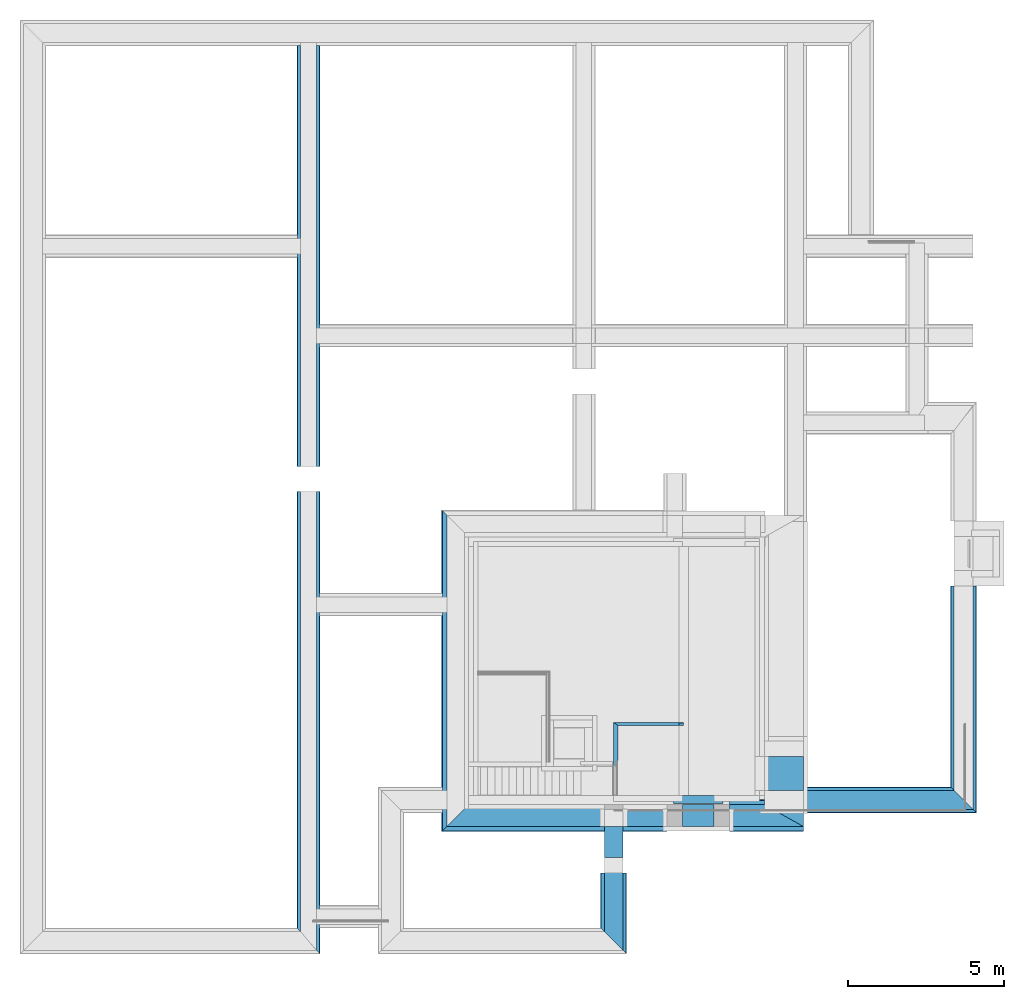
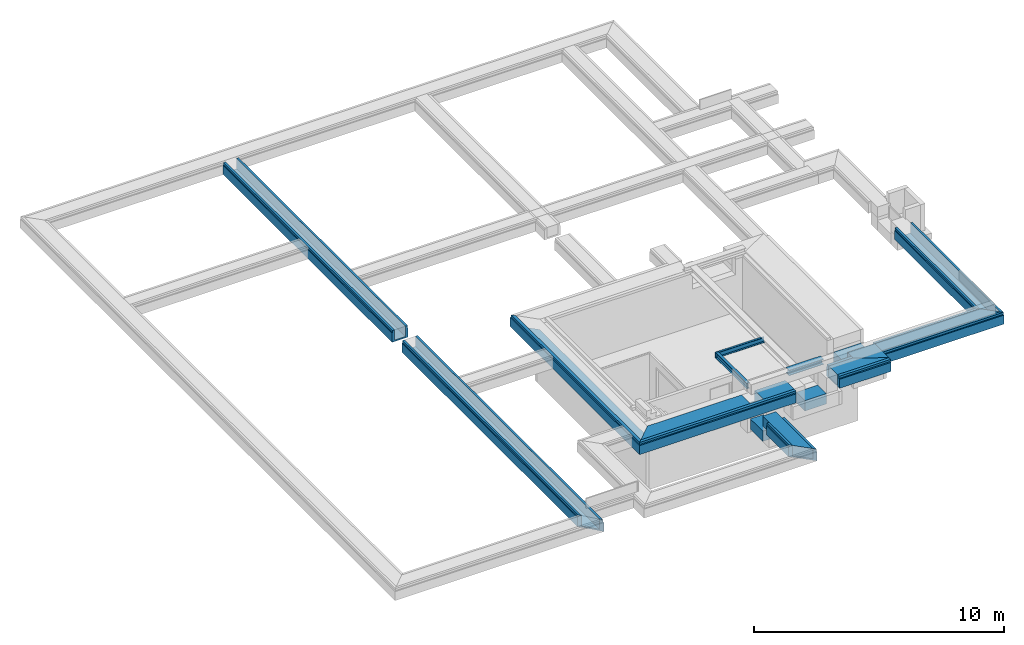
# One storey, part 2 of 11: 18 beams.
"""IFC2X3 building model written with IfcOpenShell, lengths in millimetres."""

from ifc_helpers import new_model, entity, si_unit, converted_unit, derived_unit, money_unit, direction, frame, origin_with_axes, place, context, subcontext, project, spatial, faceted_brep, material, type_object, element, save


model = new_model("IFC2X3")

# Units and contexts
model_context = context("Model", 3, precision=0.01, world=origin_with_axes(), true_north=direction((0.0, 1.0)))
body_context = subcontext(model_context, "Body", "Model", "MODEL_VIEW")
ifc_project = project(units=[si_unit("LENGTHUNIT", "METRE", prefix="MILLI"), si_unit("AREAUNIT", "SQUARE_METRE"), si_unit("VOLUMEUNIT", "CUBIC_METRE"), converted_unit("PLANEANGLEUNIT", "DEGREE", entity("IfcPlaneAngleMeasure", 0.0174532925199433), si_unit("PLANEANGLEUNIT", "RADIAN"), dimensions=[0, 0, 0, 0, 0, 0, 0]), money_unit("EUR"), converted_unit("TIMEUNIT", "Year", entity("IfcTimeMeasure", 31556926.0), si_unit("TIMEUNIT", "SECOND"), dimensions=[0, 0, 1, 0, 0, 0, 0]), si_unit("MASSUNIT", "GRAM", prefix="KILO"), si_unit("THERMODYNAMICTEMPERATUREUNIT", "DEGREE_CELSIUS"), si_unit("LUMINOUSINTENSITYUNIT", "LUMEN"), si_unit("ENERGYUNIT", "JOULE", prefix="MEGA"), derived_unit("THERMALCONDUCTANCEUNIT", [(si_unit("POWERUNIT", "WATT"), 1), (si_unit("LENGTHUNIT", "METRE"), -1), (si_unit("THERMODYNAMICTEMPERATUREUNIT", "KELVIN"), -1)]), derived_unit("SPECIFICHEATCAPACITYUNIT", [(si_unit("ENERGYUNIT", "JOULE"), 1), (si_unit("MASSUNIT", "GRAM", prefix="KILO"), -1), (si_unit("THERMODYNAMICTEMPERATUREUNIT", "KELVIN"), -1)]), derived_unit("MASSDENSITYUNIT", [(si_unit("MASSUNIT", "GRAM", prefix="KILO"), 1), (si_unit("VOLUMEUNIT", "CUBIC_METRE"), -1)])], contexts=[model_context])

# Site, building, storey
site_placement = place(None, origin_with_axes())
site = spatial("IfcSite", under=ifc_project, at=site_placement, Name="Site", CompositionType="ELEMENT")
building_placement = place(site_placement, origin_with_axes())
building = spatial("IfcBuilding", under=site, at=building_placement, Name="Naam gebouw", CompositionType="ELEMENT")
storey_placement = place(building_placement, frame((0.0, 0.0, -3060.0), z_axis=(0.0, 0.0, 1.0), x_axis=(1.0, 0.0, 0.0)))
storey = spatial("IfcBuildingStorey", under=building, at=storey_placement, Name="Kelder", CompositionType="ELEMENT", Elevation=-3060.0)

# Beams
ifc_material_1 = material(Name="Beton gewapend C")
beam_type_1 = type_object("IfcBeamType", Name="16 Fundering - betonbalk 600 x 500", PredefinedType="BEAM")
beam_1_placement = place(storey_placement, frame((29900.00000000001, 4480.000000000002, 2575.0), z_axis=(0.0, 0.0, 1.0), x_axis=(0.0, 1.0, 0.0)))
element("IfcBeam", 1, at=beam_1_placement, inside=storey, type_object=beam_type_1, material=ifc_material_1, Name="f2- Met cement gebonden producten (alle vulmiddelen)_Regenwaterafvoer-x", ObjectType="BEAM", context=body_context, shape_type="Brep", body=[
    faceted_brep([(-250.0000000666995, -300.0000000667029, -500.0000000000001), (-250.0000000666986, 5149.999999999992, -500.0000000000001), (350.0000000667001, 5149.999999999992, -500.0000000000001), (350.0000000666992, 300.0000000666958, -500.0000000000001), (-250.0000000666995, -300.0000000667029, 0.0), (-250.0000000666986, 5149.999999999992, 0.0), (350.0000000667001, 5149.999999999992, 0.0), (350.0000000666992, 300.0000000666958, 0.0)], [[[0, 1, 2, 3]], [[4, 5, 1, 0]], [[2, 1, 5, 6]], [[3, 2, 6, 7]], [[4, 0, 3, 7]], [[7, 6, 5, 4]]]),
])
beam_2_placement = place(storey_placement, frame((18654.99992779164, -0.003638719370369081, 2575.0), z_axis=(0.0, 0.0, 1.0), x_axis=(1.0, 0.0, 0.0)))
element("IfcBeam", 2, at=beam_2_placement, inside=storey, type_object=beam_type_1, material=ifc_material_1, Name="f2- Met cement gebonden producten (alle vulmiddelen)_Regenwaterafvoer-x", ObjectType="BEAM", context=body_context, shape_type="Brep", body=[
    faceted_brep([(300.0000000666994, -300.0009214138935, 0.0), (300.0000000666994, 2680.003638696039, 0.0), (-300.0000000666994, 2680.003638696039, 0.0), (-300.0000000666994, 300.0009214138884, 0.0), (300.0000000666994, -300.0009214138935, -500.0000000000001), (300.0000000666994, 2680.003638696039, -500.0000000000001), (-300.0000000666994, 2680.003638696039, -500.0000000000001), (-300.0000000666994, 300.0009214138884, -500.0000000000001)], [[[0, 1, 2, 3]], [[4, 5, 1, 0]], [[2, 1, 5, 6]], [[3, 2, 6, 7]], [[4, 0, 3, 7]], [[7, 6, 5, 4]]]),
])
beam_3_placement = place(storey_placement, frame((18655.00000228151, 3679.999999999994, 1825.0), z_axis=(0.0, 0.0, 1.0), x_axis=(-1.0, 0.0, 0.0)))
element("IfcBeam", 3, at=beam_3_placement, inside=storey, type_object=beam_type_1, material=ifc_material_1, Name="f2- Met cement gebonden producten (alle vulmiddelen)_Regenwaterafvoer-x", ObjectType="BEAM", context=body_context, shape_type="Brep", body=[
    faceted_brep([(-300.0000000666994, 0.0, -500.0), (-300.0000000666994, 999.9999999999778, -500.0), (300.0000000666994, 999.9999999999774, -500.0), (300.0000000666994, 0.0, -500.0), (-300.0000000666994, 0.0, 0.0), (-300.0000000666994, 999.9999999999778, 0.0), (300.0000000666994, 999.9999999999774, 0.0), (300.0000000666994, 0.0, 0.0)], [[[0, 1, 2, 3]], [[4, 5, 1, 0]], [[2, 1, 5, 6]], [[3, 2, 6, 7]], [[4, 0, 3, 7]], [[7, 6, 5, 4]]]),
])
ifc_material_2 = material(Name="Isolatie - Kunststof hard")
beam_type_2 = type_object("IfcBeamType", Name="16 Fundering - EPS kist 600x500 840 x 570", PredefinedType="BEAM")
beam_4_placement = place(storey_placement, frame((29899.99999999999, 4479.999999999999, 2575.0), z_axis=(0.0, 0.0, 1.0), x_axis=(0.0, 1.0, 0.0)))
element("IfcBeam", 4, at=beam_4_placement, inside=storey, type_object=beam_type_2, material=ifc_material_2, Name="n7 Kunststof met cellenstructuur_Regenwaterafvoer-x", ObjectType="BEAM", context=body_context, shape_type="Brep", body=[
    faceted_brep([(-250.0, -299.9999999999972, -500.0000000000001), (-250.0, 5150.000949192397, -500.0000000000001), (-250.0, 5150.000949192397, 0.0), (-250.0, -299.9999999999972, 0.0), (349.9999999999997, 300.0000000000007, -500.0000000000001), (350.0000000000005, 5150.000949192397, -500.0000000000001), (350.0000000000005, 5150.000949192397, 0.0), (450.0000000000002, 5150.000949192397, 0.0), (450.0000000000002, 5150.000949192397, -101.434286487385), (470.0000000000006, 5150.000949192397, -130.935084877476), (470.0000000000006, 5150.000949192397, -570.0000000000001), (-369.9999999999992, 5150.000949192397, -570.0000000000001), (-369.9999999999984, 5150.000949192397, -130.9350848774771), (-349.9999999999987, 5150.000949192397, -101.4342864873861), (-349.9999999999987, 5150.000949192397, 0.0), (-349.9999999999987, -399.999999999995, 0.0), (-349.9999999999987, -399.999999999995, -101.4342864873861), (-369.9999999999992, -419.9999999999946, -130.9350848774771), (-370.0000000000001, -419.9999999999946, -570.0000000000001), (469.9999999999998, 420.0000000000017, -570.0000000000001), (469.9999999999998, 420.0000000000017, -130.935084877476), (450.0000000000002, 400.0000000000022, -101.434286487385), (450.0000000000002, 400.0000000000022, 0.0), (349.9999999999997, 300.0000000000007, 0.0)], [[[0, 1, 2, 3]], [[4, 5, 1, 0]], [[2, 1, 5, 6, 7, 8, 9, 10, 11, 12, 13, 14]], [[3, 2, 14, 15]], [[4, 0, 3, 15, 16, 17, 18, 19, 20, 21, 22, 23]], [[23, 6, 5, 4]], [[22, 7, 6, 23]], [[21, 8, 7, 22]], [[20, 9, 8, 21]], [[19, 10, 9, 20]], [[18, 11, 10, 19]], [[17, 12, 11, 18]], [[16, 13, 12, 17]], [[15, 14, 13, 16]]]),
])
beam_5_placement = place(storey_placement, frame((18654.99992779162, -0.003638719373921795, 2575.0), z_axis=(0.0, 0.0, 1.0), x_axis=(1.0, 0.0, 0.0)))
element("IfcBeam", 5, at=beam_5_placement, inside=storey, type_object=beam_type_2, material=ifc_material_2, Name="n7 Kunststof met cellenstructuur_Regenwaterafvoer-x", ObjectType="BEAM", context=body_context, shape_type="Brep", body=[
    faceted_brep([(-300.0000000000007, 300.0009213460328, -500.0000000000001), (-300.0000000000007, 2180.003638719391, -500.0000000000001), (-300.0000000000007, 2180.003638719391, 0.0), (-300.0000000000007, 300.0009213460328, 0.0), (300.0000000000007, -300.000921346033, -500.0000000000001), (300.0000000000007, 2180.00363871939, -500.0000000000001), (300.0000000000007, 2180.00363871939, 0.0), (399.9999999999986, 2180.003638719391, 0.0), (399.9999999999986, 2180.003638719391, -101.4342864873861), (419.9999999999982, 2180.003638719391, -130.935084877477), (419.9999999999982, 2180.003638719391, -570.0000000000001), (-420.0000000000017, 2180.00363871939, -570.0000000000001), (-420.0000000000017, 2180.00363871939, -130.9350848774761), (-400.0000000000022, 2180.00363871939, -101.4342864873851), (-400.0000000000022, 2180.00363871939, 0.0), (-400.0000000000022, 400.0012284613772, 0.0), (-400.0000000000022, 400.0012284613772, -101.4342864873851), (-420.0000000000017, 420.0012898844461, -130.9350848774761), (-420.0000000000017, 420.0012898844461, -570.0000000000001), (420.0000000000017, -420.001289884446, -570.0000000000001), (419.9999999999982, -420.0012898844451, -130.935084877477), (399.9999999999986, -400.0012284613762, -101.4342864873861), (399.9999999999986, -400.0012284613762, 0.0), (300.0000000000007, -300.0009213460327, 0.0)], [[[0, 1, 2, 3]], [[4, 5, 1, 0]], [[2, 1, 5, 6, 7, 8, 9, 10, 11, 12, 13, 14]], [[3, 2, 14, 15]], [[4, 0, 3, 15, 16, 17, 18, 19, 20, 21, 22, 23]], [[23, 6, 5, 4]], [[22, 7, 6, 23]], [[21, 8, 7, 22]], [[20, 9, 8, 21]], [[19, 10, 9, 20]], [[18, 11, 10, 19]], [[17, 12, 11, 18]], [[16, 13, 12, 17]], [[15, 14, 13, 16]]]),
])
beam_6_placement = place(storey_placement, frame((29900.0, 11399.99778166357, 2575.0), z_axis=(0.0, 0.0, 1.0), x_axis=(-1.0, 0.0, 0.0)))
element("IfcBeam", 6, at=beam_6_placement, inside=storey, type_object=beam_type_2, material=ifc_material_2, Name="n7 Kunststof met cellenstructuur_Regenwaterafvoer-x", ObjectType="BEAM", context=body_context, shape_type="Brep", body=[
    faceted_brep([(-300.0000000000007, 0.0, -500.0000000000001), (-300.0000000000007, 7169.997781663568, -500.0000000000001), (-300.0000000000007, 7169.997781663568, 0.0), (-300.0000000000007, 0.0, 0.0), (300.0000000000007, 0.0, -500.0000000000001), (300.0000000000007, 6569.997781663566, -500.0000000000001), (300.0000000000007, 6569.997781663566, 0.0), (399.9999999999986, 6469.997781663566, 0.0), (399.9999999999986, 6469.997781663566, -101.434286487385), (420.0000000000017, 6449.997781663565, -130.935084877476), (420.0000000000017, 6449.997781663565, -570.0000000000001), (-419.9999999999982, 7289.997781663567, -570.0000000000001), (-419.9999999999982, 7289.997781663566, -130.9350848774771), (-399.9999999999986, 7269.997781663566, -101.4342864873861), (-399.9999999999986, 7269.997781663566, 0.0), (-399.9999999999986, 0.0, 0.0), (-399.9999999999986, 0.0, -101.4342864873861), (-419.9999999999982, 0.0, -130.9350848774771), (-419.9999999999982, 0.0, -570.0000000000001), (420.0000000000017, 0.0, -570.0000000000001), (420.0000000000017, 0.0, -130.935084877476), (399.9999999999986, 0.0, -101.434286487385), (399.9999999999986, 0.0, 0.0), (300.0000000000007, 0.0, 0.0)], [[[0, 1, 2, 3]], [[4, 5, 1, 0]], [[2, 1, 5, 6, 7, 8, 9, 10, 11, 12, 13, 14]], [[3, 2, 14, 15]], [[4, 0, 3, 15, 16, 17, 18, 19, 20, 21, 22, 23]], [[23, 6, 5, 4]], [[22, 7, 6, 23]], [[21, 8, 7, 22]], [[20, 9, 8, 21]], [[19, 10, 9, 20]], [[18, 11, 10, 19]], [[17, 12, 11, 18]], [[16, 13, 12, 17]], [[15, 14, 13, 16]]]),
])
beam_type_3 = type_object("IfcBeamType", Name="16 Fundering - EPS kist 500x500 740 x 570", PredefinedType="BEAM")
beam_7_placement = place(storey_placement, frame((8850.000000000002, 29175.0, 2575.0), z_axis=(0.0, 0.0, 1.0), x_axis=(-1.0, 0.0, 0.0)))
element("IfcBeam", 7, at=beam_7_placement, inside=storey, type_object=beam_type_3, material=ifc_material_2, Name="n7 Kunststof met cellenstructuur_Regenwaterafvoer-x", ObjectType="BEAM", context=body_context, shape_type="Brep", body=[
    faceted_brep([(-370.000000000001, 13928.52318895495, -570.0000000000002), (-369.9999999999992, 419.9999999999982, -570.0000000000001), (-369.9999999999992, 419.9999999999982, -130.935088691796), (-370.000000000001, 13928.52318895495, -130.9350828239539), (369.9999999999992, 13928.52318895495, -570.0000000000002), (370.000000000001, 419.9999999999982, -570.0000000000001), (-250.0, 419.9999999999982, -130.935088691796), (370.000000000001, 419.9999999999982, -130.935088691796), (250.0, 419.9999999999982, -130.935088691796), (250.0, 419.9999999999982, -500.0000000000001), (-250.0, 419.9999999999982, -500.0000000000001), (-349.9999999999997, 399.999994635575, -101.4342893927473), (-349.9999999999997, 13928.52318895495, -101.4342880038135), (369.9999999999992, 13928.52318895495, -130.9350828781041), (-349.9999999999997, 13928.52318895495, 0.0), (-250.0000000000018, 13928.52318895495, 0.0), (-250.0000000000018, 13928.52318895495, -500.0000000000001), (249.9999999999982, 13928.52318895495, -500.0000000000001), (249.9999999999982, 13928.52318895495, 0.0), (349.9999999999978, 13928.52318895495, 0.0), (349.9999999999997, 13928.52318895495, -101.4342879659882), (-250.0, 399.999994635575, -101.4342893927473), (349.9999999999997, 399.999994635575, -101.4342893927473), (250.0, 399.999994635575, -101.4342893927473), (250.0, 399.999994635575, -3.576282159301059e-06), (-250.0, 399.999994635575, -3.576282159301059e-06), (-349.9999999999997, 399.999994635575, -3.576282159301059e-06), (349.9999999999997, 399.999994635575, -3.576282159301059e-06)], [[[0, 1, 2, 3]], [[4, 5, 1, 0]], [[6, 2, 1, 5, 7, 8, 9, 10]], [[3, 2, 11, 12]], [[13, 4, 0, 3, 12, 14, 15, 16, 17, 18, 19, 20]], [[13, 7, 5, 4]], [[21, 11, 2, 6]], [[22, 23, 8, 7]], [[8, 23, 24, 18, 17, 9]], [[16, 10, 9, 17]], [[21, 6, 10, 16, 15, 25]], [[12, 11, 26, 14]], [[14, 26, 25, 15]], [[18, 24, 27, 19]], [[19, 27, 22, 20]], [[20, 22, 7, 13]], [[21, 25, 26, 11]], [[22, 27, 24, 23]]]),
    faceted_brep([(-370.0000000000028, 29595.00000000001, -570.0000000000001), (-370.000000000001, 14728.52318895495, -570.0000000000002), (-370.000000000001, 14728.52318895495, -130.9350829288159), (-370.0000000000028, 29595.00000000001, -130.9350848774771), (369.9999999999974, 28755.00000000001, -570.0000000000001), (369.9999999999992, 14728.52318895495, -570.0000000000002), (-349.9999999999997, 14728.52318895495, 0.0), (-350.0000000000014, 14728.52318895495, -101.4342879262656), (369.9999999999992, 14728.52318895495, -130.9350829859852), (349.9999999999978, 14728.52318895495, -101.4342878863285), (349.9999999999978, 14728.52318895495, 0.0), (249.9999999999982, 14728.52318895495, 0.0), (249.9999999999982, 14728.52318895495, -500.0000000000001), (-250.0000000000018, 14728.52318895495, -500.0000000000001), (-250.0000000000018, 14728.52318895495, 0.0), (-350.0000000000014, 29572.2972972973, -101.4342864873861), (-350.0000000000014, 29572.2972972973, 0.0), (-250.0000000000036, 29458.78378378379, 0.0), (-250.0000000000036, 29458.78378378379, -500.0000000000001), (249.9999999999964, 28891.21621621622, -500.0000000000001), (249.9999999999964, 28891.21621621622, 0.0), (349.9999999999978, 28777.70270270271, 0.0), (349.9999999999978, 28777.70270270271, -101.434286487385), (369.9999999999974, 28755.00000000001, -130.935084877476)], [[[0, 1, 2, 3]], [[4, 5, 1, 0]], [[6, 7, 2, 1, 5, 8, 9, 10, 11, 12, 13, 14]], [[3, 2, 7, 15]], [[15, 16, 17, 18, 19, 20, 21, 22, 23, 4, 0, 3]], [[23, 8, 5, 4]], [[15, 7, 6, 16]], [[22, 9, 8, 23]], [[21, 10, 9, 22]], [[20, 11, 10, 21]], [[19, 12, 11, 20]], [[18, 13, 12, 19]], [[17, 14, 13, 18]], [[16, 6, 14, 17]]]),
])
beam_type_4 = type_object("IfcBeamType", Name="16 Fundering - betonbalk 1250 x 500", PredefinedType="BEAM")
beam_8_placement = place(storey_placement, frame((23500.00000000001, 5930.000000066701, 1925.0), z_axis=(0.0, 0.0, 1.0), x_axis=(-1.0, 0.0, 0.0)))
element("IfcBeam", 8, at=beam_8_placement, inside=storey, type_object=beam_type_4, material=ifc_material_1, Name="f2- Met cement gebonden producten (alle vulmiddelen)_Regenwaterafvoer-x", ObjectType="BEAM", context=body_context, shape_type="Brep", body=[
    faceted_brep([(-1250.0, 0.0, -500.0000000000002), (-1250.0, 1100.0, -500.0000000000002), (0.0, 1100.0, -500.0), (0.0, 0.0, -500.0), (-1250.0, 0.0, 0.0), (-1250.0, 1100.0, 0.0), (0.0, 1100.0, 0.0), (0.0, 0.0, 0.0)], [[[0, 1, 2, 3]], [[4, 5, 1, 0]], [[2, 1, 5, 6]], [[3, 2, 6, 7]], [[4, 0, 3, 7]], [[7, 6, 5, 4]]]),
])
beam_9_placement = place(storey_placement, frame((23500.00000000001, 4830.000000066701, 2575.0), z_axis=(0.0, 0.0, 1.0), x_axis=(-1.0, 0.0, 0.0)))
element("IfcBeam", 9, at=beam_9_placement, inside=storey, type_object=beam_type_4, material=ifc_material_1, Name="f2- Met cement gebonden producten (alle vulmiddelen)_Regenwaterafvoer-x", ObjectType="BEAM", context=body_context, shape_type="Brep", body=[
    faceted_brep([(-1250.0, 0.0, -500.0000000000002), (-1250.0, 1149.999965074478, -500.0000000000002), (0.0, 449.999989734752, -500.0000000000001), (0.0, 0.0, -500.0000000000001), (-1250.0, 0.0, 0.0), (-1250.0, 1149.999965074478, 0.0), (0.0, 449.999989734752, 0.0), (0.0, 0.0, 0.0)], [[[0, 1, 2, 3]], [[4, 5, 1, 0]], [[2, 1, 5, 6]], [[3, 2, 6, 7]], [[4, 0, 3, 7]], [[7, 6, 5, 4]]]),
])
beam_type_5 = type_object("IfcBeamType", Name="16 Fundering - betonbalk 700 x 500", PredefinedType="BEAM")
beam_10_placement = place(storey_placement, frame((23500.00000000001, 4379.999999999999, 2575.0), z_axis=(0.0, 0.0, 1.0), x_axis=(-3.625933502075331e-08, 0.9999999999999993, 0.0)))
element("IfcBeam", 10, at=beam_10_placement, inside=storey, type_object=beam_type_5, material=ifc_material_1, Name="f2- Met cement gebonden producten (alle vulmiddelen)_Regenwaterafvoer-x", ObjectType="BEAM", context=body_context, shape_type="Brep", body=[
    faceted_brep([(1.033194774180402e-05, 0.0, -500.0000000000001), (9.718822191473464e-06, 1124.999926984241, -500.0000000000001), (9.718822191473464e-06, 1124.999926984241, 0.0), (1.033194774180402e-05, 0.0, 0.0), (-700.0000103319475, -1249.999974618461, -500.0000000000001), (-700.000010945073, 1124.999952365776, -500.0000000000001), (-700.000010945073, 1124.999952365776, 0.0), (-700.0000103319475, -1249.999974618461, 0.0)], [[[0, 1, 2, 3]], [[4, 5, 1, 0]], [[5, 6, 2, 1]], [[3, 2, 6, 7]], [[3, 7, 4, 0]], [[7, 6, 5, 4]]]),
])
beam_11_placement = place(storey_placement, frame((21875.00011324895, 4379.999941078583, 1825.0), z_axis=(0.0, 0.0, 1.0), x_axis=(4.470352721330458e-08, 0.9999999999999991, 0.0)))
element("IfcBeam", 11, at=beam_11_placement, inside=storey, type_object=beam_type_5, material=ifc_material_1, Name="f2- Met cement gebonden producten (alle vulmiddelen)_Regenwaterafvoer-x", ObjectType="BEAM", context=body_context, shape_type="Brep", body=[
    faceted_brep([(-700.0000103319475, 0.0, -500.0), (-700.0000103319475, 1000.000037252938, -500.0), (1.033194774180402e-05, 1000.000037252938, -500.0), (1.033194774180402e-05, 0.0, -500.0), (-700.0000103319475, 0.0, 0.0), (-700.0000103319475, 1000.000037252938, 0.0), (1.033194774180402e-05, 1000.000037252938, 0.0), (1.033194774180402e-05, 0.0, 0.0)], [[[0, 1, 2, 3]], [[4, 5, 1, 0]], [[2, 1, 5, 6]], [[3, 2, 6, 7]], [[4, 0, 3, 7]], [[7, 6, 5, 4]]]),
])
beam_12_placement = place(storey_placement, frame((20875.00007599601, 4379.999985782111, 2575.0), z_axis=(0.0, 0.0, 1.0), x_axis=(2.06805644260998e-09, 1.0, 0.0)))
element("IfcBeam", 12, at=beam_12_placement, inside=storey, type_object=beam_type_5, material=ifc_material_1, Name="f2- Met cement gebonden producten (alle vulmiddelen)_Regenwaterafvoer-x", ObjectType="BEAM", context=body_context, shape_type="Brep", body=[
    faceted_brep([(-700.0000103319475, 7575.000084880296, 0.0), (-699.9999909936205, 2520.000072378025, 0.0), (3.655824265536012e-05, 2520.000073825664, 0.0), (1.033194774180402e-05, 6875.000065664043, 0.0), (-700.0000103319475, 7575.000084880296, -500.0000000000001), (-699.9999909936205, 2520.000072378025, -500.0000000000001), (3.655824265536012e-05, 2520.000073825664, -500.0000000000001), (1.033194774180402e-05, 6875.000065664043, -500.0000000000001)], [[[0, 1, 2, 3]], [[4, 5, 1, 0]], [[5, 6, 2, 1]], [[3, 2, 6, 7]], [[3, 7, 4, 0]], [[7, 6, 5, 4]]]),
    faceted_brep([(2.68144590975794e-05, 500.000080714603, -500.0000000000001), (3.779907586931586e-05, 1920.000073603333, -500.0000000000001), (3.779907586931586e-05, 1920.000073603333, 0.0), (2.68144590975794e-05, 500.000080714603, 0.0), (-699.9999938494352, 500.0000792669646, -500.0000000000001), (-699.9999897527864, 1920.000072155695, -500.0000000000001), (-699.9999897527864, 1920.000072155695, 0.0), (-699.9999938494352, 500.0000792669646, 0.0)], [[[0, 1, 2, 3]], [[4, 5, 1, 0]], [[5, 6, 2, 1]], [[3, 2, 6, 7]], [[4, 0, 3, 7]], [[7, 6, 5, 4]]]),
])
ifc_material_3 = material(Name="Metaal - Staal C")
beam_type_6 = type_object("IfcBeamType", Name="IPE270 135 x 270", PredefinedType="BEAM")
beam_13_placement = place(storey_placement, frame((18722.49795555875, 4479.999999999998, 2820.0), z_axis=(0.0, 0.0, 1.0), x_axis=(1.0, 0.0, 0.0)))
element("IfcBeam", 13, at=beam_13_placement, inside=storey, type_object=beam_type_6, material=ifc_material_3, Name="h METAAL_Regenwaterafvoer-x", ObjectType="BEAM", context=body_context, shape_type="Brep", body=[
    faceted_brep([(-67.499999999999, 0.0, 135.0), (-67.499999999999, 2540.000000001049, 135.0), (-67.499999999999, 2540.000000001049, 124.8), (-67.499999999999, 0.0, 124.8), (67.499999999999, 0.0, 135.0), (67.499999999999, 2450.000000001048, 135.0), (67.499999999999, 2450.000000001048, 124.8), (3.299999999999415, 2492.800000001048, 124.8), (3.299999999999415, 2492.800000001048, -124.8), (67.499999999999, 2450.000000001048, -124.8), (67.499999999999, 2450.000000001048, -135.0), (-67.499999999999, 2540.000000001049, -135.0), (-67.499999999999, 2540.000000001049, -124.8), (-3.299999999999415, 2497.200000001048, -124.8), (-3.299999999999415, 2497.200000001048, 124.8), (-3.299999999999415, 0.0, 124.8), (-3.299999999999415, 0.0, -124.8), (-67.499999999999, 0.0, -124.8), (-67.499999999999, 0.0, -135.0), (67.499999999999, 0.0, -135.0), (67.499999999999, 0.0, -124.8), (3.299999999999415, 0.0, -124.8), (3.299999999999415, 0.0, 124.8), (67.499999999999, 0.0, 124.8)], [[[0, 1, 2, 3]], [[4, 5, 1, 0]], [[2, 1, 5, 6, 7, 8, 9, 10, 11, 12, 13, 14]], [[3, 2, 14, 15]], [[4, 0, 3, 15, 16, 17, 18, 19, 20, 21, 22, 23]], [[23, 6, 5, 4]], [[22, 7, 6, 23]], [[21, 8, 7, 22]], [[20, 9, 8, 21]], [[19, 10, 9, 20]], [[18, 11, 10, 19]], [[17, 12, 11, 18]], [[16, 13, 12, 17]], [[15, 14, 13, 16]]]),
])
beam_type_7 = type_object("IfcBeamType", Name="16 Fundering - EPS kist 500x500 1036 x 570", PredefinedType="BEAM")
beam_14_placement = place(storey_placement, frame((13650.00000000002, 13330.0, 2575.0), z_axis=(0.0, 0.0, 1.0), x_axis=(-1.0, 0.0, 0.0)))
element("IfcBeam", 14, at=beam_14_placement, inside=storey, type_object=beam_type_7, material=ifc_material_2, Name="n7 Kunststof met cellenstructuur_Regenwaterafvoer-x", ObjectType="BEAM", context=body_context, shape_type="Brep", body=[
    faceted_brep([(-349.9999999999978, 650.0000000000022, -500.0), (-349.9999999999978, 350.0000000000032, -500.0), (349.9999999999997, -349.9999999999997, -500.0), (349.9999999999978, 9649.999999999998, -500.0), (-349.9999999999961, 8950.000000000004, -500.0), (-349.9999999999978, 8650.000000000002, -500.0), (-349.9999999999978, 650.0000000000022, -570.0000000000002), (-349.9999999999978, 350.0000000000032, -569.9999999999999), (518.0000000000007, -518.0000000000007, -570.0000000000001), (518.0000000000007, -518.0000000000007, -130.935084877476), (490.0000000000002, -490.0000000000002, -101.434286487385), (490.0000000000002, -490.0000000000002, 0.0), (349.9999999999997, -349.9999999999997, 0.0), (349.9999999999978, 9649.999999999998, 0.0), (517.9999999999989, 9817.999999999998, -130.935084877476), (517.9999999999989, 9817.999999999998, -570.0000000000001), (-349.9999999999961, 8950.000000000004, -569.9999999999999), (489.9999999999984, 9790.0, 0.0), (489.9999999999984, 9790.0, -101.434286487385), (-349.9999999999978, 8650.000000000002, -570.0000000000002)], [[[0, 1, 2, 3, 4, 5]], [[1, 0, 6, 7]], [[1, 7, 8, 9, 10, 11, 12, 2]], [[13, 3, 2, 12]], [[14, 15, 16, 4, 3, 13, 17, 18]], [[16, 19, 5, 4]], [[6, 0, 5, 19]], [[7, 6, 19, 16, 15, 8]], [[15, 14, 9, 8]], [[14, 18, 10, 9]], [[18, 17, 11, 10]], [[17, 13, 12, 11]]]),
])
beam_15_placement = place(storey_placement, frame((13650.00000000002, 4030.000000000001, 2575.0), z_axis=(0.0, 0.0, 1.0), x_axis=(0.0, -1.0, 0.0)))
element("IfcBeam", 15, at=beam_15_placement, inside=storey, type_object=beam_type_7, material=ifc_material_2, Name="n7 Kunststof met cellenstructuur_Regenwaterafvoer-x", ObjectType="BEAM", context=body_context, shape_type="Brep", body=[
    faceted_brep([(517.9999999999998, 6725.000053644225, -570.0000000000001), (-349.9999999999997, 6725.000053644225, -570.0000000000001), (-349.9999999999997, 6725.000053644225, -500.0), (349.9999999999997, 6725.000053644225, -500.0), (349.9999999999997, 6725.000053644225, 0.0), (489.9999999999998, 6725.000053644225, 0.0), (489.9999999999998, 6725.000053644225, -101.434286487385), (517.9999999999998, 6725.000053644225, -130.935084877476), (517.9999999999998, -518.0000000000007, -570.0000000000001), (-349.9999999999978, 349.9999999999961, -569.9999999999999), (-349.9999999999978, 349.9999999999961, -500.0), (350.0000000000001, -350.0000000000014, -500.0), (350.0000000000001, -350.0000000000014, 0.0), (490.0000000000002, -490.0000000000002, 0.0), (490.0000000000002, -490.0000000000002, -101.434286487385), (517.9999999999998, -518.0000000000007, -130.935084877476)], [[[0, 1, 2, 3, 4, 5, 6, 7]], [[8, 9, 1, 0]], [[9, 10, 2, 1]], [[3, 2, 10, 11]], [[3, 11, 12, 4]], [[4, 12, 13, 5]], [[5, 13, 14, 6]], [[6, 14, 15, 7]], [[7, 15, 8, 0]], [[11, 10, 9, 8, 15, 14, 13, 12]]]),
])
beam_16_placement = place(storey_placement, frame((22375.00013137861, 4030.0, 2575.0), z_axis=(0.0, 0.0, 1.0), x_axis=(0.0, -1.0, 0.0)))
element("IfcBeam", 16, at=beam_16_placement, inside=storey, type_object=beam_type_7, material=ifc_material_2, Name="n7 Kunststof met cellenstructuur_Regenwaterafvoer-x", ObjectType="BEAM", context=body_context, shape_type="Brep", body=[
    faceted_brep([(-349.9999999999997, 0.0, -500.0000000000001), (-350.0000000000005, 2374.999868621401, -500.0000000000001), (-350.0000000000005, 2374.999868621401, 0.0), (-349.9999999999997, 0.0, 0.0), (350.0000000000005, 0.0, -500.0000000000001), (350.0000000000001, 2374.999868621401, -500.0000000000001), (350.0000000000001, 2374.999868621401, 0.0), (490.0000000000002, 2374.999868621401, 0.0), (490.0000000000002, 2374.999868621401, -101.434286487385), (518.0000000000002, 2374.999868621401, -130.935084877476), (518.0000000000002, 2374.999868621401, -570.0000000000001), (-517.9999999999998, 2374.999868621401, -570.0000000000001), (-517.9999999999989, 2374.999868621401, -130.9350848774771), (-489.9999999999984, 2374.999868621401, -101.4342864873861), (-489.9999999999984, 2374.999868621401, 0.0), (-489.9999999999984, 0.0, 0.0), (-489.9999999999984, 0.0, -101.4342864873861), (-517.9999999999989, 0.0, -130.9350848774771), (-517.9999999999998, 0.0, -570.0000000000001), (518.0000000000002, 0.0, -570.0000000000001), (518.0000000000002, 0.0, -130.935084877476), (490.0000000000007, 0.0, -101.434286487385), (490.0000000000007, 0.0, 0.0), (350.0000000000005, 0.0, 0.0)], [[[0, 1, 2, 3]], [[4, 5, 1, 0]], [[2, 1, 5, 6, 7, 8, 9, 10, 11, 12, 13, 14]], [[3, 2, 14, 15]], [[4, 0, 3, 15, 16, 17, 18, 19, 20, 21, 22, 23]], [[23, 6, 5, 4]], [[22, 7, 6, 23]], [[21, 8, 7, 22]], [[20, 9, 8, 21]], [[19, 10, 9, 20]], [[18, 11, 10, 19]], [[17, 12, 11, 18]], [[16, 13, 12, 17]], [[15, 14, 13, 16]]]),
])
beam_type_8 = type_object("IfcBeamType", Name="HEB260 260 x 260", PredefinedType="BEAM")
beam_17_placement = place(storey_placement, frame((20575.00005289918, 4549.999996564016, 2830.0), z_axis=(0.0, 0.0, 1.0), x_axis=(-1.725726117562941e-08, -0.9999999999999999, 0.0)))
element("IfcBeam", 17, at=beam_17_placement, inside=storey, type_object=beam_type_8, material=ifc_material_3, Name="h METAAL_Regenwaterafvoer-x", ObjectType="BEAM", context=body_context, shape_type="Brep", body=[
    faceted_brep([(-129.9999999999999, 0.0, 130.0), (-129.9999999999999, 1600.000000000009, 130.0), (-129.9999999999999, 1600.000000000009, 112.5), (-129.9999999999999, 0.0, 112.5), (129.9999999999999, 0.0, 130.0), (129.9999999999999, 1600.000000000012, 130.0), (129.9999999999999, 1600.000000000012, 112.5), (4.999999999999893, 1600.000000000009, 112.5), (4.999999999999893, 1600.000000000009, -112.5), (129.9999999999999, 1600.000000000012, -112.5), (129.9999999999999, 1600.000000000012, -130.0), (-129.9999999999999, 1600.000000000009, -130.0), (-129.9999999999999, 1600.000000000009, -112.5), (-4.999999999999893, 1600.000000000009, -112.5), (-4.999999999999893, 1600.000000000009, 112.5), (-4.999999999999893, 0.0, 112.5), (-4.999999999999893, 0.0, -112.5), (-129.9999999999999, 0.0, -112.5), (-129.9999999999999, 0.0, -130.0), (129.9999999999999, 0.0, -130.0), (129.9999999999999, 0.0, -112.5), (4.999999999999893, 0.0, -112.5), (4.999999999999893, 0.0, 112.5), (129.9999999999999, 0.0, 112.5)], [[[0, 1, 2, 3]], [[4, 5, 1, 0]], [[2, 1, 5, 6, 7, 8, 9, 10, 11, 12, 13, 14]], [[3, 2, 14, 15]], [[4, 0, 3, 15, 16, 17, 18, 19, 20, 21, 22, 23]], [[23, 6, 5, 4]], [[22, 7, 6, 23]], [[21, 8, 7, 22]], [[20, 9, 8, 21]], [[19, 10, 9, 20]], [[18, 11, 10, 19]], [[17, 12, 11, 18]], [[16, 13, 12, 17]], [[15, 14, 13, 16]]]),
])
beam_type_9 = type_object("IfcBeamType", Name="UNP260 90 x 260", PredefinedType="BEAM")
beam_18_placement = place(storey_placement, frame((18722.49795555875, 6975.000000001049, 2825.0), z_axis=(0.0, 0.0, 1.0), x_axis=(0.0, -1.0, 0.0)))
element("IfcBeam", 18, at=beam_18_placement, inside=storey, type_object=beam_type_9, material=ifc_material_3, Name="h METAAL_Regenwaterafvoer-x", ObjectType="BEAM", context=body_context, shape_type="Brep", body=[
    faceted_brep([(-44.99999999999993, -67.4999999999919, 130.0), (-44.99999999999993, 2037.499974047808, 130.0), (-44.99999999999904, 2037.499975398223, 112.5), (-44.99999999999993, 2181.249978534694, 112.5000000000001), (-44.99999999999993, 2181.249978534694, -130.0), (-44.99999999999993, -67.4999999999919, -130.0), (44.99999999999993, 67.50000000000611, 130.0), (44.99999999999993, 2037.499974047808, 130.0), (-34.99999999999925, 2037.499975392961, 112.5), (44.99999999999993, 2037.499974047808, 116.0), (-35.00000000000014, 2037.499974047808, 116.0), (-35.00000000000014, 2181.249978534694, 112.5000000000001), (44.99999999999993, 2181.249978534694, -130.0), (-35.00000000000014, 2181.249978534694, -116.0), (44.99999999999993, 2181.249978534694, -116.0), (44.99999999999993, 67.50000000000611, -130.0), (44.99999999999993, 67.50000000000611, 116.0), (44.99999999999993, 67.50000000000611, -116.0), (-35.00000000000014, -52.49999999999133, -116.0), (-35.00000000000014, -52.49999999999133, 116.0)], [[[0, 1, 2, 3, 4, 5]], [[6, 7, 1, 0]], [[8, 2, 1, 7, 9, 10]], [[11, 3, 2, 8]], [[12, 4, 3, 11, 13, 14]], [[5, 4, 12, 15]], [[16, 6, 0, 5, 15, 17, 18, 19]], [[16, 9, 7, 6]], [[19, 10, 9, 16]], [[11, 8, 10, 19, 18, 13]], [[17, 14, 13, 18]], [[15, 12, 14, 17]]]),
])

save(model, "model.ifc")
